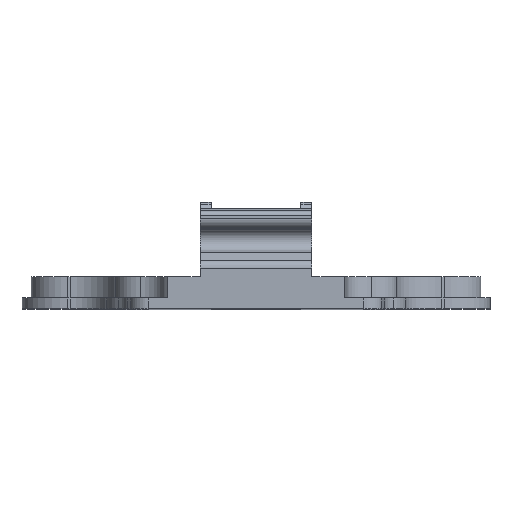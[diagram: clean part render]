
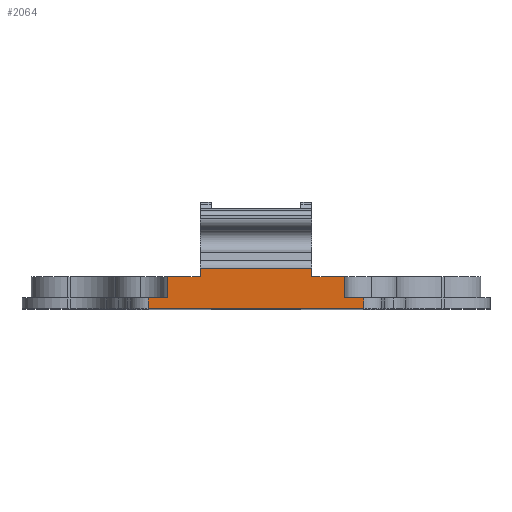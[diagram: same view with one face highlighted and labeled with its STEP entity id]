
A CAD part, top view. The second image highlights one B-rep face of the part: STEP entity #2064.
In plain terms, the highlighted planar face has unit normal (0, 0, 1).
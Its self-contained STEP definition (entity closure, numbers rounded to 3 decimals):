
#56 = VERTEX_POINT ( 'NONE', #3554 ) ;
#63 = VERTEX_POINT ( 'NONE', #3527 ) ;
#285 = ORIENTED_EDGE ( 'NONE', *, *, #1374, .F. ) ;
#463 = EDGE_LOOP ( 'NONE', ( #3639, #3638, #3637, #3636, #3635, #3634, #3633, #3632, #3630, #3629, #3628, #285 ) ) ;
#759 = CARTESIAN_POINT ( 'NONE',  ( -4.9, 4.397, 51.5 ) ) ;
#760 = DIRECTION ( 'NONE',  ( 0., -1., 0. ) ) ;
#761 = DIRECTION ( 'NONE',  ( -1., 0., 0. ) ) ;
#763 = CARTESIAN_POINT ( 'NONE',  ( -11.792, 0., 51.5 ) ) ;
#764 = DIRECTION ( 'NONE',  ( 1., 0., 0. ) ) ;
#765 = CARTESIAN_POINT ( 'NONE',  ( 9.701, 3.5, 51.5 ) ) ;
#766 = DIRECTION ( 'NONE',  ( 0., 1., 0. ) ) ;
#767 = CARTESIAN_POINT ( 'NONE',  ( 11.792, 1.2, 51.5 ) ) ;
#768 = DIRECTION ( 'NONE',  ( 0., 1., 0. ) ) ;
#769 = CARTESIAN_POINT ( 'NONE',  ( 12.5, 1.2, 51.5 ) ) ;
#770 = DIRECTION ( 'NONE',  ( 1., 0., 0. ) ) ;
#773 = CARTESIAN_POINT ( 'NONE',  ( -12.654, 0., 51.5 ) ) ;
#774 = DIRECTION ( 'NONE',  ( -1., 0., 0. ) ) ;
#775 = CARTESIAN_POINT ( 'NONE',  ( -12.5, 1.2, 51.5 ) ) ;
#776 = DIRECTION ( 'NONE',  ( 1., 0., 0. ) ) ;
#786 = CARTESIAN_POINT ( 'NONE',  ( -9.701, 3.5, 51.5 ) ) ;
#787 = DIRECTION ( 'NONE',  ( 0., -1., 0. ) ) ;
#788 = CARTESIAN_POINT ( 'NONE',  ( -22.5, 3.5, 51.5 ) ) ;
#789 = DIRECTION ( 'NONE',  ( 1., 0., 0. ) ) ;
#1374 = EDGE_CURVE ( 'NONE', #63, #56, #2810, .T. ) ;
#1535 = EDGE_CURVE ( 'NONE', #3665, #3663, #2574, .T. ) ;
#1581 = EDGE_CURVE ( 'NONE', #3665, #56, #2492, .T. ) ;
#1584 = EDGE_CURVE ( 'NONE', #3663, #3645, #2490, .T. ) ;
#1585 = EDGE_CURVE ( 'NONE', #3650, #3645, #2486, .T. ) ;
#1586 = EDGE_CURVE ( 'NONE', #3655, #3647, #2483, .T. ) ;
#1587 = EDGE_CURVE ( 'NONE', #3650, #3647, #2481, .T. ) ;
#1589 = EDGE_CURVE ( 'NONE', #3655, #3649, #2476, .T. ) ;
#1590 = EDGE_CURVE ( 'NONE', #3657, #3651, #2474, .T. ) ;
#1593 = EDGE_CURVE ( 'NONE', #3657, #3649, #2468, .T. ) ;
#1595 = EDGE_CURVE ( 'NONE', #3652, #3651, #2465, .T. ) ;
#1596 = EDGE_CURVE ( 'NONE', #3652, #63, #2463, .T. ) ;
#1719 = CARTESIAN_POINT ( 'NONE',  ( 9.701, 3.5, 51.5 ) ) ;
#1720 = CARTESIAN_POINT ( 'NONE',  ( 11.792, 1.2, 51.5 ) ) ;
#1721 = CARTESIAN_POINT ( 'NONE',  ( -11.792, 0., 51.5 ) ) ;
#1726 = CARTESIAN_POINT ( 'NONE',  ( 9.701, 1.2, 51.5 ) ) ;
#1727 = CARTESIAN_POINT ( 'NONE',  ( -9.701, 1.2, 51.5 ) ) ;
#1728 = CARTESIAN_POINT ( 'NONE',  ( -9.701, 3.5, 51.5 ) ) ;
#1731 = CARTESIAN_POINT ( 'NONE',  ( 11.792, 0., 51.5 ) ) ;
#1733 = CARTESIAN_POINT ( 'NONE',  ( -11.792, 1.2, 51.5 ) ) ;
#1739 = CARTESIAN_POINT ( 'NONE',  ( 6.1, 3.5, 51.5 ) ) ;
#1741 = CARTESIAN_POINT ( 'NONE',  ( 6.1, 4.397, 51.5 ) ) ;
#2064 = ADVANCED_FACE ( 'NONE', ( #2395 ), #3231, .T. ) ;
#2395 = FACE_OUTER_BOUND ( 'NONE', #463, .T. ) ;
#2460 = VECTOR ( 'NONE', #789, 1000. ) ;
#2462 = VECTOR ( 'NONE', #787, 1000. ) ;
#2463 = LINE ( 'NONE', #788, #2460 ) ;
#2465 = LINE ( 'NONE', #786, #2462 ) ;
#2466 = VECTOR ( 'NONE', #760, 1000. ) ;
#2468 = LINE ( 'NONE', #763, #2466 ) ;
#2471 = VECTOR ( 'NONE', #776, 1000. ) ;
#2473 = VECTOR ( 'NONE', #774, 1000. ) ;
#2474 = LINE ( 'NONE', #775, #2471 ) ;
#2476 = LINE ( 'NONE', #773, #2473 ) ;
#2477 = VECTOR ( 'NONE', #770, 1000. ) ;
#2480 = VECTOR ( 'NONE', #768, 1000. ) ;
#2481 = LINE ( 'NONE', #769, #2477 ) ;
#2482 = VECTOR ( 'NONE', #766, 1000. ) ;
#2483 = LINE ( 'NONE', #767, #2480 ) ;
#2484 = VECTOR ( 'NONE', #764, 1000. ) ;
#2486 = LINE ( 'NONE', #765, #2482 ) ;
#2489 = VECTOR ( 'NONE', #761, 1000. ) ;
#2490 = LINE ( 'NONE', #4004, #2484 ) ;
#2492 = LINE ( 'NONE', #759, #2489 ) ;
#2567 = VECTOR ( 'NONE', #3847, 1000. ) ;
#2574 = LINE ( 'NONE', #3845, #2567 ) ;
#2806 = VECTOR ( 'NONE', #4174, 1000. ) ;
#2810 = LINE ( 'NONE', #4179, #2806 ) ;
#3226 = CARTESIAN_POINT ( 'NONE',  ( -7.747, -6.454, 51.5 ) ) ;
#3231 = PLANE ( 'NONE',  #3800 ) ;
#3234 = DIRECTION ( 'NONE',  ( 0., 0., 1. ) ) ;
#3235 = DIRECTION ( 'NONE',  ( 1., 0., 0. ) ) ;
#3527 = CARTESIAN_POINT ( 'NONE',  ( -6.1, 3.5, 51.5 ) ) ;
#3554 = CARTESIAN_POINT ( 'NONE',  ( -6.1, 4.397, 51.5 ) ) ;
#3628 = ORIENTED_EDGE ( 'NONE', *, *, #1581, .T. ) ;
#3629 = ORIENTED_EDGE ( 'NONE', *, *, #1535, .F. ) ;
#3630 = ORIENTED_EDGE ( 'NONE', *, *, #1584, .F. ) ;
#3632 = ORIENTED_EDGE ( 'NONE', *, *, #1585, .T. ) ;
#3633 = ORIENTED_EDGE ( 'NONE', *, *, #1587, .F. ) ;
#3634 = ORIENTED_EDGE ( 'NONE', *, *, #1586, .T. ) ;
#3635 = ORIENTED_EDGE ( 'NONE', *, *, #1589, .F. ) ;
#3636 = ORIENTED_EDGE ( 'NONE', *, *, #1593, .T. ) ;
#3637 = ORIENTED_EDGE ( 'NONE', *, *, #1590, .F. ) ;
#3638 = ORIENTED_EDGE ( 'NONE', *, *, #1595, .T. ) ;
#3639 = ORIENTED_EDGE ( 'NONE', *, *, #1596, .F. ) ;
#3645 = VERTEX_POINT ( 'NONE', #1719 ) ;
#3647 = VERTEX_POINT ( 'NONE', #1720 ) ;
#3649 = VERTEX_POINT ( 'NONE', #1721 ) ;
#3650 = VERTEX_POINT ( 'NONE', #1726 ) ;
#3651 = VERTEX_POINT ( 'NONE', #1727 ) ;
#3652 = VERTEX_POINT ( 'NONE', #1728 ) ;
#3655 = VERTEX_POINT ( 'NONE', #1731 ) ;
#3657 = VERTEX_POINT ( 'NONE', #1733 ) ;
#3663 = VERTEX_POINT ( 'NONE', #1739 ) ;
#3665 = VERTEX_POINT ( 'NONE', #1741 ) ;
#3800 = AXIS2_PLACEMENT_3D ( 'NONE', #3226, #3234, #3235 ) ;
#3845 = CARTESIAN_POINT ( 'NONE',  ( 6.1, -9.129, 51.5 ) ) ;
#3847 = DIRECTION ( 'NONE',  ( 0., -1., 0. ) ) ;
#4004 = CARTESIAN_POINT ( 'NONE',  ( 22.5, 3.5, 51.5 ) ) ;
#4174 = DIRECTION ( 'NONE',  ( 0., 1., 0. ) ) ;
#4179 = CARTESIAN_POINT ( 'NONE',  ( -6.1, -9.129, 51.5 ) ) ;
